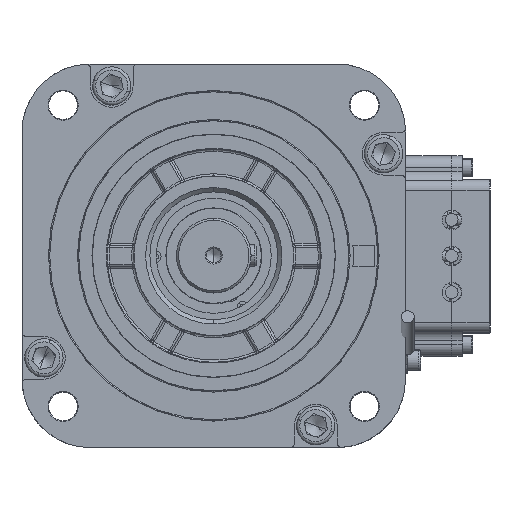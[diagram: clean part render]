
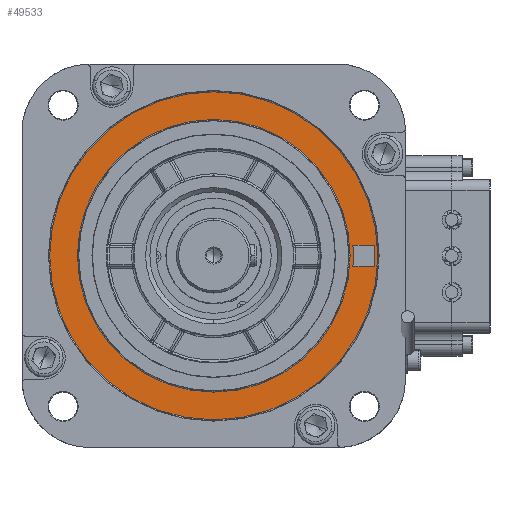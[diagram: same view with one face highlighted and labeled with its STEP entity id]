
A CAD part, top view. The second image highlights one B-rep face of the part: STEP entity #49533.
In plain terms, the highlighted planar face has unit normal (0, 0, 1).
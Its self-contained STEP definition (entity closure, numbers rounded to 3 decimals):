
#220 = CARTESIAN_POINT ( 'NONE',  ( 0., 0., 109. ) ) ;
#1982 = ORIENTED_EDGE ( 'NONE', *, *, #175422, .F. ) ;
#5041 = FACE_BOUND ( 'NONE', #44327, .T. ) ;
#5676 = EDGE_CURVE ( 'NONE', #86089, #167038, #19168, .T. ) ;
#5953 = CARTESIAN_POINT ( 'NONE',  ( 77.5, 0., 109. ) ) ;
#9434 = DIRECTION ( 'NONE',  ( 0., 1., 0. ) ) ;
#10030 = CIRCLE ( 'NONE', #52465, 65.5 ) ;
#12377 = CARTESIAN_POINT ( 'NONE',  ( 0., -64., 109. ) ) ;
#13627 = ORIENTED_EDGE ( 'NONE', *, *, #52382, .T. ) ;
#18052 = VECTOR ( 'NONE', #22923, 1000. ) ;
#19168 = LINE ( 'NONE', #109353, #18052 ) ;
#22688 = CIRCLE ( 'NONE', #28796, 75.5 ) ;
#22923 = DIRECTION ( 'NONE',  ( 1., 0., 0. ) ) ;
#28796 = AXIS2_PLACEMENT_3D ( 'NONE', #121548, #32316, #151017 ) ;
#32316 = DIRECTION ( 'NONE',  ( 0., 0., 1. ) ) ;
#35590 = AXIS2_PLACEMENT_3D ( 'NONE', #185137, #139556, #9434 ) ;
#44327 = EDGE_LOOP ( 'NONE', ( #13627, #177733 ) ) ;
#47297 = ORIENTED_EDGE ( 'NONE', *, *, #143769, .T. ) ;
#49227 = DIRECTION ( 'NONE',  ( 0., 0., -1. ) ) ;
#49533 = ADVANCED_FACE ( 'NONE', ( #135169, #5041, #62961 ), #178858, .F. ) ;
#52382 = EDGE_CURVE ( 'NONE', #97759, #157367, #132860, .T. ) ;
#52465 = AXIS2_PLACEMENT_3D ( 'NONE', #180589, #79868, #166327 ) ;
#57053 = AXIS2_PLACEMENT_3D ( 'NONE', #121441, #49227, #92955 ) ;
#58678 = AXIS2_PLACEMENT_3D ( 'NONE', #93415, #95299, #183620 ) ;
#59670 = CARTESIAN_POINT ( 'NONE',  ( 0., 64., 109. ) ) ;
#62961 = FACE_OUTER_BOUND ( 'NONE', #159382, .T. ) ;
#63159 = VERTEX_POINT ( 'NONE', #84657 ) ;
#64516 = CARTESIAN_POINT ( 'NONE',  ( 75.334, -5., 109. ) ) ;
#70773 = CARTESIAN_POINT ( 'NONE',  ( 65.309, -5., 109. ) ) ;
#70897 = CIRCLE ( 'NONE', #58678, 77. ) ;
#71363 = VECTOR ( 'NONE', #100326, 1000. ) ;
#71453 = VERTEX_POINT ( 'NONE', #103806 ) ;
#76767 = ORIENTED_EDGE ( 'NONE', *, *, #175984, .F. ) ;
#79868 = DIRECTION ( 'NONE',  ( 0., 0., -1. ) ) ;
#84657 = CARTESIAN_POINT ( 'NONE',  ( 0., -77., 109. ) ) ;
#86089 = VERTEX_POINT ( 'NONE', #70773 ) ;
#86447 = EDGE_CURVE ( 'NONE', #63159, #95477, #181494, .T. ) ;
#92955 = DIRECTION ( 'NONE',  ( 0., 1., 0. ) ) ;
#93415 = CARTESIAN_POINT ( 'NONE',  ( 0., 0., 109. ) ) ;
#95299 = DIRECTION ( 'NONE',  ( 0., 0., 1. ) ) ;
#95477 = VERTEX_POINT ( 'NONE', #171726 ) ;
#97670 = EDGE_CURVE ( 'NONE', #157367, #97759, #138766, .T. ) ;
#97759 = VERTEX_POINT ( 'NONE', #59670 ) ;
#98279 = ORIENTED_EDGE ( 'NONE', *, *, #5676, .F. ) ;
#100326 = DIRECTION ( 'NONE',  ( -1., 0., 0. ) ) ;
#100645 = EDGE_LOOP ( 'NONE', ( #125924, #76767, #1982, #98279 ) ) ;
#103806 = CARTESIAN_POINT ( 'NONE',  ( 75.334, 5., 109. ) ) ;
#105672 = AXIS2_PLACEMENT_3D ( 'NONE', #220, #113296, #172174 ) ;
#106925 = ORIENTED_EDGE ( 'NONE', *, *, #86447, .T. ) ;
#108541 = DIRECTION ( 'NONE',  ( 0., 0., -1. ) ) ;
#109353 = CARTESIAN_POINT ( 'NONE',  ( 75.334, -5., 109. ) ) ;
#113296 = DIRECTION ( 'NONE',  ( 0., 0., 1. ) ) ;
#121441 = CARTESIAN_POINT ( 'NONE',  ( 0., 0., 109. ) ) ;
#121548 = CARTESIAN_POINT ( 'NONE',  ( 0., 0., 109. ) ) ;
#125924 = ORIENTED_EDGE ( 'NONE', *, *, #182753, .F. ) ;
#127145 = VERTEX_POINT ( 'NONE', #170703 ) ;
#132860 = CIRCLE ( 'NONE', #57053, 64. ) ;
#135169 = FACE_BOUND ( 'NONE', #100645, .T. ) ;
#137966 = DIRECTION ( 'NONE',  ( 0., -1., 0. ) ) ;
#138766 = CIRCLE ( 'NONE', #35590, 64. ) ;
#139556 = DIRECTION ( 'NONE',  ( 0., 0., -1. ) ) ;
#143769 = EDGE_CURVE ( 'NONE', #95477, #63159, #70897, .T. ) ;
#144018 = LINE ( 'NONE', #156417, #71363 ) ;
#151017 = DIRECTION ( 'NONE',  ( 0., -1., 0. ) ) ;
#156417 = CARTESIAN_POINT ( 'NONE',  ( 75.334, 5., 109. ) ) ;
#157367 = VERTEX_POINT ( 'NONE', #12377 ) ;
#159382 = EDGE_LOOP ( 'NONE', ( #47297, #106925 ) ) ;
#166327 = DIRECTION ( 'NONE',  ( 0., -1., 0. ) ) ;
#167038 = VERTEX_POINT ( 'NONE', #64516 ) ;
#170703 = CARTESIAN_POINT ( 'NONE',  ( 65.309, 5., 109. ) ) ;
#171726 = CARTESIAN_POINT ( 'NONE',  ( 0., 77., 109. ) ) ;
#172174 = DIRECTION ( 'NONE',  ( 0., 1., 0. ) ) ;
#175422 = EDGE_CURVE ( 'NONE', #167038, #71453, #22688, .T. ) ;
#175984 = EDGE_CURVE ( 'NONE', #71453, #127145, #144018, .T. ) ;
#177733 = ORIENTED_EDGE ( 'NONE', *, *, #97670, .T. ) ;
#178858 = PLANE ( 'NONE',  #184148 ) ;
#180589 = CARTESIAN_POINT ( 'NONE',  ( 0., 0., 109. ) ) ;
#181494 = CIRCLE ( 'NONE', #105672, 77. ) ;
#182753 = EDGE_CURVE ( 'NONE', #127145, #86089, #10030, .T. ) ;
#183620 = DIRECTION ( 'NONE',  ( 0., 1., 0. ) ) ;
#184148 = AXIS2_PLACEMENT_3D ( 'NONE', #5953, #108541, #137966 ) ;
#185137 = CARTESIAN_POINT ( 'NONE',  ( 0., 0., 109. ) ) ;
